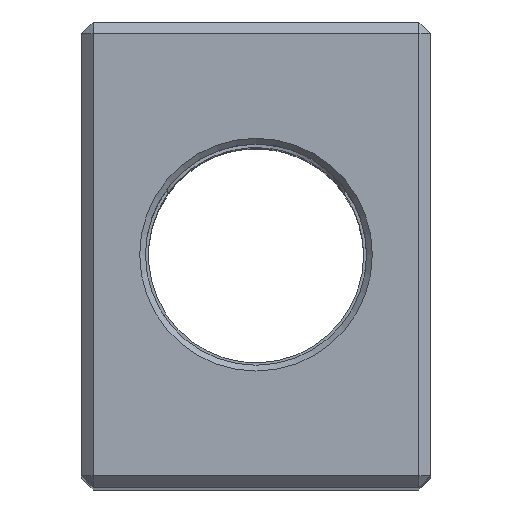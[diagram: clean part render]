
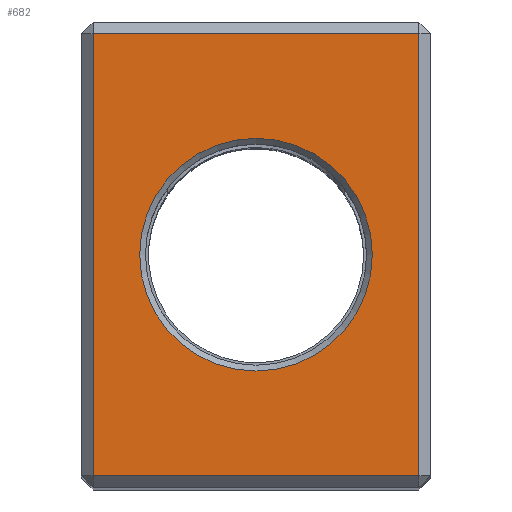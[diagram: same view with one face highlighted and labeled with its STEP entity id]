
A CAD part, top view. The second image highlights one B-rep face of the part: STEP entity #682.
In plain terms, the highlighted planar face has unit normal (0, 0, 1).
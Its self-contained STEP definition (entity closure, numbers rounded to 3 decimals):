
#24=FACE_BOUND('',#119,.T.);
#32=PLANE('',#762);
#74=FACE_OUTER_BOUND('',#118,.T.);
#118=EDGE_LOOP('',(#525,#526,#527,#528));
#119=EDGE_LOOP('',(#529));
#173=LINE('',#1216,#238);
#174=LINE('',#1218,#239);
#175=LINE('',#1220,#240);
#176=LINE('',#1221,#241);
#238=VECTOR('',#877,10.);
#239=VECTOR('',#878,10.);
#240=VECTOR('',#879,10.);
#241=VECTOR('',#880,10.);
#299=CIRCLE('',#759,10.);
#340=VERTEX_POINT('',#1206);
#343=VERTEX_POINT('',#1214);
#344=VERTEX_POINT('',#1215);
#345=VERTEX_POINT('',#1217);
#346=VERTEX_POINT('',#1219);
#405=EDGE_CURVE('',#340,#340,#299,.T.);
#409=EDGE_CURVE('',#343,#344,#173,.T.);
#410=EDGE_CURVE('',#345,#343,#174,.T.);
#411=EDGE_CURVE('',#346,#345,#175,.T.);
#412=EDGE_CURVE('',#344,#346,#176,.T.);
#525=ORIENTED_EDGE('',*,*,#409,.F.);
#526=ORIENTED_EDGE('',*,*,#410,.F.);
#527=ORIENTED_EDGE('',*,*,#411,.F.);
#528=ORIENTED_EDGE('',*,*,#412,.F.);
#529=ORIENTED_EDGE('',*,*,#405,.F.);
#682=ADVANCED_FACE('',(#74,#24),#32,.T.);
#759=AXIS2_PLACEMENT_3D('',#1207,#868,#869);
#762=AXIS2_PLACEMENT_3D('',#1213,#875,#876);
#868=DIRECTION('center_axis',(0.,0.,1.));
#869=DIRECTION('ref_axis',(-1.,0.,0.));
#875=DIRECTION('center_axis',(0.,0.,1.));
#876=DIRECTION('ref_axis',(1.,0.,0.));
#877=DIRECTION('',(0.,1.,0.));
#878=DIRECTION('',(-1.,0.,0.));
#879=DIRECTION('',(0.,-1.,0.));
#880=DIRECTION('',(1.,0.,0.));
#1206=CARTESIAN_POINT('',(10.,0.,65.));
#1207=CARTESIAN_POINT('Origin',(0.,0.,65.));
#1213=CARTESIAN_POINT('Origin',(0.,0.,65.));
#1214=CARTESIAN_POINT('',(-14.,-19.,65.));
#1215=CARTESIAN_POINT('',(-14.,19.,65.));
#1216=CARTESIAN_POINT('',(-14.,10.,65.));
#1217=CARTESIAN_POINT('',(14.,-19.,65.));
#1218=CARTESIAN_POINT('',(-7.5,-19.,65.));
#1219=CARTESIAN_POINT('',(14.,19.,65.));
#1220=CARTESIAN_POINT('',(14.,-10.,65.));
#1221=CARTESIAN_POINT('',(7.5,19.,65.));
